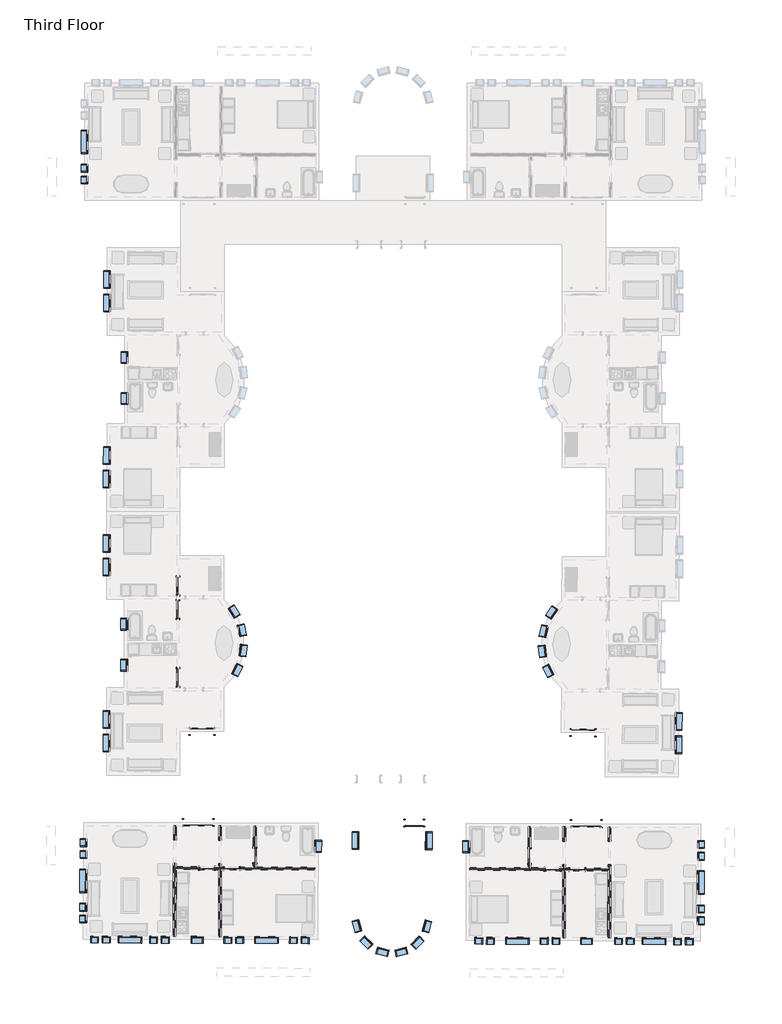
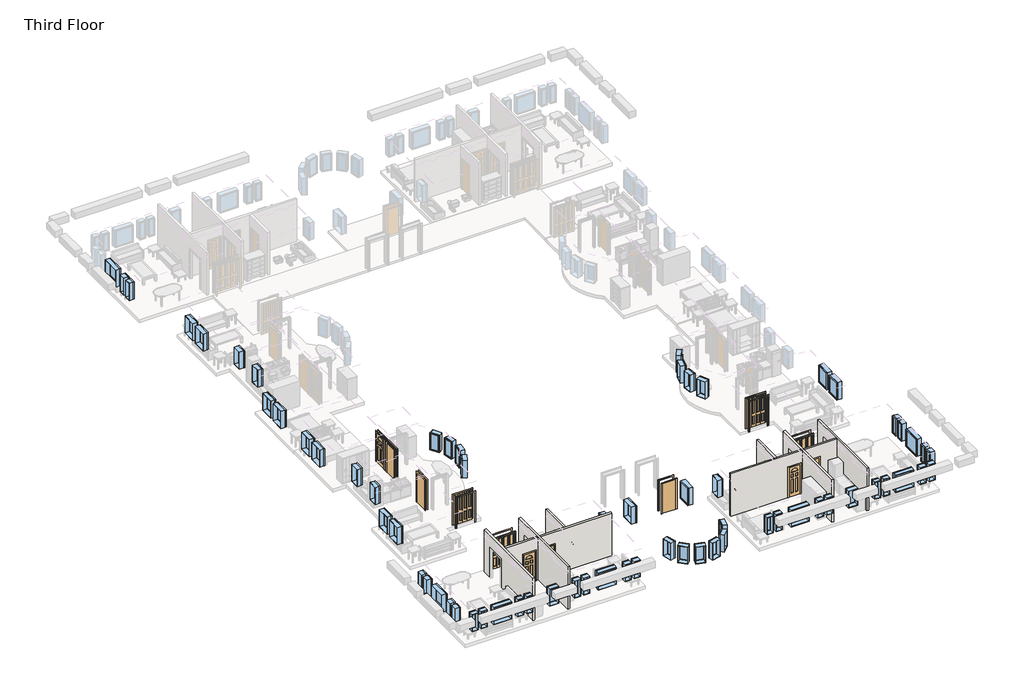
# One storey, part 1 of 5: 67 windows, 14 doors, 8 walls.
"""IFC4 building model written with IfcOpenShell, lengths in millimetres."""

from ifc_helpers import new_model, si_unit, frame, origin, place, context, project, spatial, polyline, outline, extrude, faceted_brep, transform, mapped, element, save
from components import m_bifold_4_panel_1220_x_2134mm_46e1cad3, m_bifold_4_panel_1220_x_2134mm_cde6dea2, m_bifold_4_panel_1525_x_2134mm_1ddae71f, m_bifold_4_panel_1525_x_2134mm_ac598c8b, m_single_decorative_2_0762_x_2134mm_0d0af7cb, m_single_decorative_2_0762_x_2134mm_2fe67c8e, m_single_decorative_2_0915_x_2134mm_0b11df3f, m_single_flush_0762_x_2134mm_0d89e411, m_single_flush_0762_x_2134mm_a28375c7, m_single_flush_0915_x_2134mm_ab9b6334, m_single_flush_0915_x_2134mm_08e0827a, m_single_flush_0915_x_2134mm_70678a7c, m_fixed_0406_x_1220mm_57fee329, m_fixed_0406_x_1220mm_85c28f40, m_fixed_0610_x_1220mm_2c28ef1d, m_fixed_0610_x_1220mm_1ea27827, m_fixed_0915_x_1220mm_bde29121, m_fixed_0915_x_1220mm_2a2509e7, m_fixed_1220_x_1220mm_e08ff7af, m_fixed_1220_x_1220mm_8f5f8ad3

model = new_model("IFC4")

# Units and contexts
model_context = context("Model", 3, world=origin())
ifc_project = project(units=[si_unit("LENGTHUNIT", "METRE", prefix="MILLI")], contexts=[model_context])

# Site, building, storey
site = spatial("IfcSite", under=ifc_project)
building = spatial("IfcBuilding", under=site)
storey = spatial("IfcBuildingStorey", under=building, Name="Third Floor", Elevation=6096.0)

# Doors
placement = place(None, origin())
m_bifold_4_panel_1220_x_2134mm_shape = m_bifold_4_panel_1220_x_2134mm_46e1cad3(model_context)
element("IfcDoor", 1, ObjectType="M_Bifold-4 Panel : 1220 x 2134mm", at=placement, inside=storey, context=model_context, shape_type="MappedRepresentation", body=[
    mapped(m_bifold_4_panel_1220_x_2134mm_shape, transform((-9084.0085376, -31158.0124606, 6096.0), x_axis=(0.9999905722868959, -0.0043422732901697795, 0.0), y_axis=(0.0043422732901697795, 0.9999905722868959, 0.0), z_axis=(0.0, 0.0, 1.0))),
])
m_bifold_4_panel_1220_x_2134mm_2_shape = m_bifold_4_panel_1220_x_2134mm_cde6dea2(model_context)
element("IfcDoor", 2, ObjectType="M_Bifold-4 Panel : 1220 x 2134mm", at=placement, inside=storey, context=model_context, shape_type="MappedRepresentation", body=[
    mapped(m_bifold_4_panel_1220_x_2134mm_2_shape, transform((-28896.4341492, -31100.6581424, 6096.0), x_axis=(-0.9999989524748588, 0.0014474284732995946, 0.0), y_axis=(-0.0014474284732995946, -0.9999989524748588, 0.0), z_axis=(0.0, 0.0, 1.0))),
])
m_bifold_4_panel_1525_x_2134mm_shape = m_bifold_4_panel_1525_x_2134mm_1ddae71f(model_context)
element("IfcDoor", 3, ObjectType="M_Bifold-4 Panel : 1525 x 2134mm", at=placement, inside=storey, context=model_context, shape_type="MappedRepresentation", body=[
    mapped(m_bifold_4_panel_1525_x_2134mm_shape, transform((-29084.8596063, -35825.933405, 6096.0), x_axis=(-0.9999958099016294, 0.0028948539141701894, 0.0), y_axis=(-0.0028948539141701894, -0.9999958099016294, 0.0), z_axis=(0.0, 0.0, 1.0))),
])
m_bifold_4_panel_1525_x_2134mm_2_shape = m_bifold_4_panel_1525_x_2134mm_ac598c8b(model_context)
element("IfcDoor", 4, ObjectType="M_Bifold-4 Panel : 1525 x 2134mm", at=placement, inside=storey, context=model_context, shape_type="MappedRepresentation", body=[
    mapped(m_bifold_4_panel_1525_x_2134mm_2_shape, transform((-8922.9440871, -35884.2994497, 6096.0), x_axis=(0.9999958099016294, -0.0028948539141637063, 0.0), y_axis=(0.0028948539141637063, 0.9999958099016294, 0.0), z_axis=(0.0, 0.0, 1.0))),
])
m_single_decorative_2_0762_x_2134mm_shape = m_single_decorative_2_0762_x_2134mm_0d0af7cb(model_context)
element("IfcDoor", 5, ObjectType="M_Single-Decorative 2 : 0762 x 2134mm", at=placement, inside=storey, context=model_context, shape_type="MappedRepresentation", body=[
    mapped(m_single_decorative_2_0762_x_2134mm_shape, transform((-10682.8170859, -38255.9648119, 6096.0), x_axis=(0.9999958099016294, -0.002894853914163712, 0.0), y_axis=(0.002894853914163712, 0.9999958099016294, 0.0), z_axis=(0.0, 0.0, 1.0))),
])
element("IfcDoor", 6, ObjectType="M_Single-Decorative 2 : 0762 x 2134mm", at=placement, inside=storey, context=model_context, shape_type="MappedRepresentation", body=[
    mapped(m_single_decorative_2_0762_x_2134mm_shape, transform((-28625.491904, -38204.0231719, 6096.0), x_axis=(0.9999958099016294, -0.0028948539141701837, 0.0), y_axis=(0.0028948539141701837, 0.9999958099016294, 0.0), z_axis=(0.0, 0.0, 1.0))),
])
m_single_decorative_2_0762_x_2134mm_2_shape = m_single_decorative_2_0762_x_2134mm_2fe67c8e(model_context)
element("IfcDoor", 7, ObjectType="M_Single-Decorative 2 : 0762 x 2134mm", at=placement, inside=storey, context=model_context, shape_type="MappedRepresentation", body=[
    mapped(m_single_decorative_2_0762_x_2134mm_2_shape, transform((-9396.0724775, -38259.6897652, 6096.0), x_axis=(-0.9999958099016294, 0.002894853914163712, 0.0), y_axis=(-0.002894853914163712, -0.9999958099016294, 0.0), z_axis=(0.0, 0.0, 1.0))),
])
element("IfcDoor", 8, ObjectType="M_Single-Decorative 2 : 0762 x 2134mm", at=placement, inside=storey, context=model_context, shape_type="MappedRepresentation", body=[
    mapped(m_single_decorative_2_0762_x_2134mm_2_shape, transform((-27338.7472956, -38207.7481251, 6096.0), x_axis=(-0.9999958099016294, 0.0028948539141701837, 0.0), y_axis=(-0.0028948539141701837, -0.9999958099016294, 0.0), z_axis=(0.0, 0.0, 1.0))),
])
m_single_decorative_2_0915_x_2134mm_shape = m_single_decorative_2_0915_x_2134mm_0b11df3f(model_context)
element("IfcDoor", 9, ObjectType="M_Single-Decorative 2 : 0915 x 2134mm", at=placement, inside=storey, context=model_context, shape_type="MappedRepresentation", body=[
    mapped(m_single_decorative_2_0915_x_2134mm_shape, transform((-30128.4841363, -23534.6169126, 6096.0), x_axis=(-0.0014474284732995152, -0.9999989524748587, 0.0), y_axis=(0.9999989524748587, -0.0014474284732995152, 0.0), z_axis=(0.0, 0.0, 1.0))),
])
m_single_flush_0762_x_2134mm_shape = m_single_flush_0762_x_2134mm_0d89e411(model_context)
element("IfcDoor", 10, ObjectType="M_Single-Flush : 0762 x 2134mm", at=placement, inside=storey, context=model_context, shape_type="MappedRepresentation", body=[
    mapped(m_single_flush_0762_x_2134mm_shape, transform((-26146.2902967, -37533.4472886, 6096.0), x_axis=(-0.0028948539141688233, -0.9999958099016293, 0.0), y_axis=(0.9999958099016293, -0.0028948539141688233, 0.0), z_axis=(0.0, 0.0, 1.0))),
])
m_single_flush_0762_x_2134mm_2_shape = m_single_flush_0762_x_2134mm_a28375c7(model_context)
element("IfcDoor", 11, ObjectType="M_Single-Flush : 0762 x 2134mm", at=placement, inside=storey, context=model_context, shape_type="MappedRepresentation", body=[
    mapped(m_single_flush_0762_x_2134mm_2_shape, transform((-11871.3501103, -37574.7713282, 6096.0), x_axis=(-0.002894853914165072, -0.9999958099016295, 0.0), y_axis=(0.9999958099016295, -0.002894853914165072, 0.0), z_axis=(0.0, 0.0, 1.0))),
])
m_single_flush_0915_x_2134mm_shape = m_single_flush_0915_x_2134mm_ab9b6334(model_context)
element("IfcDoor", 12, ObjectType="M_Single-Flush : 0915 x 2134mm", at=placement, inside=storey, context=model_context, shape_type="MappedRepresentation", body=[
    mapped(m_single_flush_0915_x_2134mm_shape, transform((-30135.3858371, -28302.8619177, 6096.0), x_axis=(-0.0014474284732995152, -0.9999989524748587, 0.0), y_axis=(0.9999989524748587, -0.0014474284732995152, 0.0), z_axis=(0.0, 0.0, 1.0))),
])
m_single_flush_0915_x_2134mm_2_shape = m_single_flush_0915_x_2134mm_08e0827a(model_context)
element("IfcDoor", 13, ObjectType="M_Single-Flush : 0915 x 2134mm", at=placement, inside=storey, context=model_context, shape_type="MappedRepresentation", body=[
    mapped(m_single_flush_0915_x_2134mm_2_shape, transform((-30130.249999, -24754.6156346, 6096.0), x_axis=(0.0014474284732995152, 0.9999989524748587, 0.0), y_axis=(-0.9999989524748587, 0.0014474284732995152, 0.0), z_axis=(0.0, 0.0, 1.0))),
])
m_single_flush_0915_x_2134mm_3_shape = m_single_flush_0915_x_2134mm_70678a7c(model_context)
element("IfcDoor", 14, ObjectType="M_Single-Flush : 0915 x 2134mm", at=placement, inside=storey, context=model_context, shape_type="MappedRepresentation", body=[
    mapped(m_single_flush_0915_x_2134mm_3_shape, transform((-17860.906636, -35858.4252454, 6096.0), x_axis=(0.9999958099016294, -0.0028948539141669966, 0.0), y_axis=(0.0028948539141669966, 0.9999958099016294, 0.0), z_axis=(0.0, 0.0, 1.0))),
])

# Walls
element("IfcWall", 15, ObjectType="Interior - 135mm Partition (2-hr)", at=placement, inside=storey, context=model_context, shape_type="Brep", body=[
    faceted_brep([(-7661.5898742, -41808.9757108, 6096.0), (-7650.6270624, -38021.9915787, 6096.0), (-7650.6270624, -38021.9915787, 8230.0), (-7647.0953406, -36801.9966906, 8230.0), (-7647.0953406, -36801.9966906, 6096.0), (-7644.9560436, -36062.9997871, 6096.0), (-7644.9560436, -36062.9997871, 9144.0), (-7661.5898742, -41808.9757108, 9144.0), (-7786.1264946, -38021.599326, 8230.0), (-7786.1264946, -38021.599326, 6096.0), (-7786.6330941, -38196.5985928, 6096.0), (-7787.0253468, -38332.098025, 6096.0), (-7797.0893064, -41808.5834581, 6096.0), (-7797.0893064, -41808.5834581, 9144.0), (-7787.0253468, -38332.098025, 9144.0), (-7786.6330941, -38196.5985928, 9144.0), (-7780.4554758, -36062.6075344, 9144.0), (-7780.4554758, -36062.6075344, 6096.0), (-7782.5947729, -36801.6044379, 6096.0), (-7782.5947729, -36801.6044379, 8230.0)], [[[0, 1, 2, 3, 4, 5, 6, 7]], [[8, 9, 10, 11, 12, 13, 14, 15, 16, 17, 18, 19]], [[18, 17, 5, 4]], [[12, 11, 10, 9, 1, 0]], [[7, 6, 16, 15, 14, 13]], [[4, 3, 19, 18]], [[2, 1, 9, 8]], [[3, 2, 8, 19]], [[6, 5, 17, 16]], [[0, 7, 13, 12]]]),
])
element("IfcWall", 16, ObjectType="Interior - 135mm Partition (2-hr)", at=placement, inside=storey, context=model_context, shape_type="Brep", body=[
    faceted_brep([(-10000.8354782, -36795.1829282, 8230.0), (-10000.8354782, -36795.1829282, 6096.0), (-9998.6961811, -36056.1860247, 6096.0), (-9998.6961811, -36056.1860247, 9144.0), (-10004.8737994, -38190.1770831, 9144.0), (-10005.2660521, -38325.6765153, 9144.0), (-10015.3300117, -41802.1619484, 9144.0), (-10015.3300117, -41802.1619484, 6096.0), (-10005.2660521, -38325.6765153, 6096.0), (-10004.8737994, -38190.1770831, 6096.0), (-10004.3671999, -38015.1778163, 6096.0), (-10004.3671999, -38015.1778163, 8230.0), (-10134.1956134, -36055.793772, 6096.0), (-10136.3349104, -36794.7906755, 6096.0), (-10136.3349104, -36794.7906755, 8230.0), (-10139.8666322, -38014.7855636, 8230.0), (-10139.8666322, -38014.7855636, 6096.0), (-10140.3732316, -38189.7848304, 6096.0), (-10140.7654843, -38325.2842626, 6096.0), (-10150.829444, -41801.7696957, 6096.0), (-10150.829444, -41801.7696957, 9144.0), (-10140.7654843, -38325.2842626, 9144.0), (-10140.3732316, -38189.7848304, 9144.0), (-10134.1956134, -36055.793772, 9144.0)], [[[0, 1, 2, 3, 4, 5, 6, 7, 8, 9, 10, 11]], [[12, 13, 14, 15, 16, 17, 18, 19, 20, 21, 22, 23]], [[2, 1, 13, 12]], [[10, 9, 8, 7, 19, 18, 17, 16]], [[6, 5, 4, 3, 23, 22, 21, 20]], [[16, 15, 11, 10]], [[14, 13, 1, 0]], [[15, 14, 0, 11]], [[3, 2, 12, 23]], [[7, 6, 20, 19]]]),
])
element("IfcWall", 17, ObjectType="Interior - 135mm Partition (2-hr)", at=placement, inside=storey, context=model_context, shape_type="Brep", body=[
    faceted_brep([(-9777.2670074, -38326.336542, 6096.0), (-9777.2670074, -38326.336542, 8230.0), (-9015.2702003, -38328.5424207, 8230.0), (-9015.2702003, -38328.5424207, 6096.0), (-7787.0253468, -38332.098025, 6096.0), (-7787.0253468, -38332.098025, 9144.0), (-10005.2660521, -38325.6765153, 9144.0), (-10005.2660521, -38325.6765153, 6096.0), (-9776.8747547, -38190.8371097, 8230.0), (-9776.8747547, -38190.8371097, 6096.0), (-10004.8737994, -38190.1770831, 6096.0), (-10004.8737994, -38190.1770831, 9144.0), (-7786.6330941, -38196.5985928, 9144.0), (-7786.6330941, -38196.5985928, 6096.0), (-9014.8779476, -38193.0429884, 6096.0), (-9014.8779476, -38193.0429884, 8230.0)], [[[0, 1, 2, 3, 4, 5, 6, 7]], [[8, 9, 10, 11, 12, 13, 14, 15]], [[9, 0, 7, 10]], [[3, 14, 13, 4]], [[5, 12, 11, 6]], [[1, 0, 9, 8]], [[2, 1, 8, 15]], [[3, 2, 15, 14]], [[5, 4, 13, 12]], [[7, 6, 11, 10]]]),
    faceted_brep([(-10302.0148087, -38324.8174674, 8230.0), (-10302.0148087, -38324.8174674, 6096.0), (-10140.7654843, -38325.2842626, 6096.0), (-10140.7654843, -38325.2842626, 9144.0), (-14989.2451686, -38311.2485634, 9144.0), (-14989.2451686, -38311.2485634, 6096.0), (-11064.0116158, -38322.6115887, 6096.0), (-11064.0116158, -38322.6115887, 8230.0), (-10301.622556, -38189.3180352, 6096.0), (-10301.622556, -38189.3180352, 8230.0), (-11063.6193631, -38187.1121565, 8230.0), (-11063.6193631, -38187.1121565, 6096.0), (-11805.3662551, -38184.9648986, 6096.0), (-11940.8656874, -38184.5726459, 6096.0), (-14988.8529159, -38175.7491311, 6096.0), (-14988.8529159, -38175.7491311, 9144.0), (-11940.8656874, -38184.5726459, 9144.0), (-11805.3662551, -38184.9648986, 9144.0), (-10140.3732316, -38189.7848304, 9144.0), (-10140.3732316, -38189.7848304, 6096.0)], [[[0, 1, 2, 3, 4, 5, 6, 7]], [[8, 9, 10, 11, 12, 13, 14, 15, 16, 17, 18, 19]], [[1, 8, 19, 2]], [[11, 6, 5, 14, 13, 12]], [[15, 4, 3, 18, 17, 16]], [[9, 8, 1, 0]], [[10, 9, 0, 7]], [[11, 10, 7, 6]], [[5, 4, 15, 14]], [[3, 2, 19, 18]]]),
])
element("IfcWall", 18, ObjectType="Interior - 135mm Partition (2-hr)", at=placement, inside=storey, context=model_context, shape_type="SweptSolid", body=[
    extrude(outline(polyline([(-2309.0, 0.0), (-2080.0, 0.0), (-2080.0, -2134.0), (-1318.0, -2134.0), (-1318.0, 0.0), (-175.0000001, 0.0), (-175.0000001, -3048.0), (-2309.0, -3048.0), (-2309.0, 0.0)])), frame((-11798.6820374, -35875.9745735, 6096.0), z_axis=(-0.9999958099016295, 0.002894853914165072, 0.0), x_axis=(0.002894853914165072, 0.9999958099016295, 0.0)), (0.0, 0.0, 1.0), 135.5),
])
element("IfcWall", 19, ObjectType="Interior - 135mm Partition (2-hr)", at=placement, inside=storey, context=model_context, shape_type="Brep", body=[
    faceted_brep([(-30244.9952471, -41743.5997775, 6096.0), (-30234.9312874, -38267.1143443, 6096.0), (-30234.5390347, -38131.6149121, 6096.0), (-30234.0324353, -37956.6156454, 6096.0), (-30234.0324353, -37956.6156454, 8230.0), (-30230.5007135, -36736.6207573, 8230.0), (-30230.5007135, -36736.6207573, 6096.0), (-30228.3614165, -35997.6238538, 6096.0), (-30228.3614165, -35997.6238538, 9144.0), (-30234.5390347, -38131.6149121, 9144.0), (-30234.9312874, -38267.1143443, 9144.0), (-30244.9952471, -41743.5997775, 9144.0), (-30369.5318675, -37956.2233926, 8230.0), (-30369.5318675, -37956.2233926, 6096.0), (-30380.4946793, -41743.2075247, 6096.0), (-30380.4946793, -41743.2075247, 9144.0), (-30363.8608487, -35997.2316011, 9144.0), (-30363.8608487, -35997.2316011, 6096.0), (-30366.0001458, -36736.2285046, 6096.0), (-30366.0001458, -36736.2285046, 8230.0)], [[[0, 1, 2, 3, 4, 5, 6, 7, 8, 9, 10, 11]], [[12, 13, 14, 15, 16, 17, 18, 19]], [[18, 17, 7, 6]], [[14, 13, 3, 2, 1, 0]], [[11, 10, 9, 8, 16, 15]], [[6, 5, 19, 18]], [[4, 3, 13, 12]], [[5, 4, 12, 19]], [[0, 11, 15, 14]], [[8, 7, 17, 16]]]),
])
element("IfcWall", 20, ObjectType="Interior - 135mm Partition (2-hr)", at=placement, inside=storey, context=model_context, shape_type="Brep", body=[
    faceted_brep([(-27876.760576, -36743.4345197, 8230.0), (-27876.760576, -36743.4345197, 6096.0), (-27874.6212789, -36004.4376162, 6096.0), (-27874.6212789, -36004.4376162, 9144.0), (-27880.7988972, -38138.4286745, 9144.0), (-27881.1911499, -38273.9281067, 9144.0), (-27891.2551095, -41750.4135399, 9144.0), (-27891.2551095, -41750.4135399, 6096.0), (-27881.1911499, -38273.9281067, 6096.0), (-27880.7988972, -38138.4286745, 6096.0), (-27880.2922977, -37963.4294078, 6096.0), (-27880.2922977, -37963.4294078, 8230.0), (-28010.1207112, -36004.0453635, 6096.0), (-28012.2600082, -36743.042267, 6096.0), (-28012.2600082, -36743.042267, 8230.0), (-28015.79173, -37963.037155, 8230.0), (-28015.79173, -37963.037155, 6096.0), (-28016.2983294, -38138.0364218, 6096.0), (-28016.6905821, -38273.535854, 6096.0), (-28026.7545418, -41750.0212871, 6096.0), (-28026.7545418, -41750.0212871, 9144.0), (-28016.6905821, -38273.535854, 9144.0), (-28016.2983294, -38138.0364218, 9144.0), (-28010.1207112, -36004.0453635, 9144.0)], [[[0, 1, 2, 3, 4, 5, 6, 7, 8, 9, 10, 11]], [[12, 13, 14, 15, 16, 17, 18, 19, 20, 21, 22, 23]], [[2, 1, 13, 12]], [[10, 9, 8, 7, 19, 18, 17, 16]], [[6, 5, 4, 3, 23, 22, 21, 20]], [[16, 15, 11, 10]], [[14, 13, 1, 0]], [[15, 14, 0, 11]], [[7, 6, 20, 19]], [[3, 2, 12, 23]]]),
])
element("IfcWall", 21, ObjectType="Interior - 135mm Partition (2-hr)", at=placement, inside=storey, context=model_context, shape_type="Brep", body=[
    faceted_brep([(-30234.5390347, -38131.6149121, 6096.0), (-30234.5390347, -38131.6149121, 9144.0), (-28016.2983294, -38138.0364218, 9144.0), (-28016.2983294, -38138.0364218, 6096.0), (-28244.2973741, -38137.3763951, 6096.0), (-28244.2973741, -38137.3763951, 8230.0), (-29006.2941812, -38135.1705164, 8230.0), (-29006.2941812, -38135.1705164, 6096.0), (-30234.9312874, -38267.1143443, 9144.0), (-30234.9312874, -38267.1143443, 6096.0), (-29006.6864339, -38270.6699486, 6096.0), (-29006.6864339, -38270.6699486, 8230.0), (-28244.6896268, -38272.8758273, 8230.0), (-28244.6896268, -38272.8758273, 6096.0), (-28016.6905821, -38273.535854, 6096.0), (-28016.6905821, -38273.535854, 9144.0)], [[[0, 1, 2, 3, 4, 5, 6, 7]], [[8, 9, 10, 11, 12, 13, 14, 15]], [[9, 0, 7, 10]], [[13, 4, 3, 14]], [[1, 8, 15, 2]], [[1, 0, 9, 8]], [[3, 2, 15, 14]], [[5, 4, 13, 12]], [[6, 5, 12, 11]], [[7, 6, 11, 10]]]),
    faceted_brep([(-27719.5495728, -38138.8954697, 8230.0), (-27719.5495728, -38138.8954697, 6096.0), (-27880.7988972, -38138.4286745, 6096.0), (-27880.7988972, -38138.4286745, 9144.0), (-26215.8058737, -38143.2486063, 9144.0), (-26080.3064415, -38143.640859, 9144.0), (-23032.3192129, -38152.4643737, 9144.0), (-23032.3192129, -38152.4643737, 6096.0), (-26080.3064415, -38143.640859, 6096.0), (-26215.8058737, -38143.2486063, 6096.0), (-26957.5527657, -38141.1013484, 6096.0), (-26957.5527657, -38141.1013484, 8230.0), (-27719.9418255, -38274.3949019, 6096.0), (-27719.9418255, -38274.3949019, 8230.0), (-26957.9450184, -38276.6007806, 8230.0), (-26957.9450184, -38276.6007806, 6096.0), (-23032.7114656, -38287.9638059, 6096.0), (-23032.7114656, -38287.9638059, 9144.0), (-27881.1911499, -38273.9281067, 9144.0), (-27881.1911499, -38273.9281067, 6096.0)], [[[0, 1, 2, 3, 4, 5, 6, 7, 8, 9, 10, 11]], [[12, 13, 14, 15, 16, 17, 18, 19]], [[1, 12, 19, 2]], [[15, 10, 9, 8, 7, 16]], [[17, 6, 5, 4, 3, 18]], [[3, 2, 19, 18]], [[13, 12, 1, 0]], [[14, 13, 0, 11]], [[15, 14, 11, 10]], [[7, 6, 17, 16]]]),
])
element("IfcWall", 22, ObjectType="Interior - 135mm Partition (2-hr)", at=placement, inside=storey, context=model_context, shape_type="SweptSolid", body=[
    extrude(outline(polyline([(-2309.0, 0.0), (-2080.0, 0.0), (-2080.0, -2134.0), (-1317.9999999, -2134.0), (-1317.9999999, 0.0), (-175.0, 0.0), (-175.0, -3048.0), (-2309.0, -3048.0), (-2309.0, 0.0)])), frame((-26073.6222238, -35834.6505339, 6096.0), z_axis=(-0.9999958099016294, 0.0028948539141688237, 0.0), x_axis=(0.0028948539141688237, 0.9999958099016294, 0.0)), (0.0, 0.0, 1.0), 135.5),
])

# Windows
m_fixed_0406_x_1220mm_shape = m_fixed_0406_x_1220mm_57fee329(model_context)
element("IfcWindow", 23, ObjectType="M_Fixed : 0406 x 1220mm", at=placement, inside=storey, context=model_context, shape_type="MappedRepresentation", body=[
    mapped(m_fixed_0406_x_1220mm_shape, transform((-35008.8416203, -2447.8811614, 6096.0), x_axis=(0.0, -1.0, 0.0), y_axis=(1.0, 0.0, 0.0), z_axis=(0.0, 0.0, 1.0))),
])
element("IfcWindow", 24, ObjectType="M_Fixed : 0406 x 1220mm", at=placement, inside=storey, context=model_context, shape_type="MappedRepresentation", body=[
    mapped(m_fixed_0406_x_1220mm_shape, transform((-35008.8416203, -1837.8811614, 6096.0), x_axis=(0.0, -1.0, 0.0), y_axis=(1.0, 0.0, 0.0), z_axis=(0.0, 0.0, 1.0))),
])
element("IfcWindow", 25, ObjectType="M_Fixed : 0406 x 1220mm", at=placement, inside=storey, context=model_context, shape_type="MappedRepresentation", body=[
    mapped(m_fixed_0406_x_1220mm_shape, transform((-10500.8722121, -41988.7571565, 6096.0), x_axis=(0.9999958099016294, -0.002894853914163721, 0.0), y_axis=(0.002894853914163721, 0.9999958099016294, 0.0), z_axis=(0.0, 0.0, 1.0))),
])
element("IfcWindow", 26, ObjectType="M_Fixed : 0406 x 1220mm", at=placement, inside=storey, context=model_context, shape_type="MappedRepresentation", body=[
    mapped(m_fixed_0406_x_1220mm_shape, transform((-11110.8696561, -41986.9912956, 6096.0), x_axis=(0.9999958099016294, -0.002894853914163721, 0.0), y_axis=(0.002894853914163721, 0.9999958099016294, 0.0), z_axis=(0.0, 0.0, 1.0))),
])
element("IfcWindow", 27, ObjectType="M_Fixed : 0406 x 1220mm", at=placement, inside=storey, context=model_context, shape_type="MappedRepresentation", body=[
    mapped(m_fixed_0406_x_1220mm_shape, transform((-3572.1512442, -42008.8148756, 6096.0), x_axis=(0.9999958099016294, -0.002894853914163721, 0.0), y_axis=(0.002894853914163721, 0.9999958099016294, 0.0), z_axis=(0.0, 0.0, 1.0))),
])
element("IfcWindow", 28, ObjectType="M_Fixed : 0406 x 1220mm", at=placement, inside=storey, context=model_context, shape_type="MappedRepresentation", body=[
    mapped(m_fixed_0406_x_1220mm_shape, transform((-4182.1486882, -42007.0490147, 6096.0), x_axis=(0.9999958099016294, -0.002894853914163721, 0.0), y_axis=(0.002894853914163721, 0.9999958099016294, 0.0), z_axis=(0.0, 0.0, 1.0))),
])
element("IfcWindow", 29, ObjectType="M_Fixed : 0406 x 1220mm", at=placement, inside=storey, context=model_context, shape_type="MappedRepresentation", body=[
    mapped(m_fixed_0406_x_1220mm_shape, transform((-2955.3079143, -36968.5794278, 6096.0), x_axis=(0.0028948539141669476, 0.9999958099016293, 0.0), y_axis=(-0.9999958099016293, 0.0028948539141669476, 0.0), z_axis=(0.0, 0.0, 1.0))),
])
element("IfcWindow", 30, ObjectType="M_Fixed : 0406 x 1220mm", at=placement, inside=storey, context=model_context, shape_type="MappedRepresentation", body=[
    mapped(m_fixed_0406_x_1220mm_shape, transform((-2957.0737751, -37578.5768719, 6096.0), x_axis=(0.0028948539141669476, 0.9999958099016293, 0.0), y_axis=(-0.9999958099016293, 0.0028948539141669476, 0.0), z_axis=(0.0, 0.0, 1.0))),
])
element("IfcWindow", 31, ObjectType="M_Fixed : 0406 x 1220mm", at=placement, inside=storey, context=model_context, shape_type="MappedRepresentation", body=[
    mapped(m_fixed_0406_x_1220mm_shape, transform((-23528.3176256, -41951.0444472, 6096.0), x_axis=(0.9999958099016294, -0.0028948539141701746, 0.0), y_axis=(0.0028948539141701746, 0.9999958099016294, 0.0), z_axis=(0.0, 0.0, 1.0))),
])
element("IfcWindow", 32, ObjectType="M_Fixed : 0406 x 1220mm", at=placement, inside=storey, context=model_context, shape_type="MappedRepresentation", body=[
    mapped(m_fixed_0406_x_1220mm_shape, transform((-24138.3150696, -41949.2785863, 6096.0), x_axis=(0.9999958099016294, -0.0028948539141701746, 0.0), y_axis=(0.0028948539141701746, 0.9999958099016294, 0.0), z_axis=(0.0, 0.0, 1.0))),
])
element("IfcWindow", 33, ObjectType="M_Fixed : 0406 x 1220mm", at=placement, inside=storey, context=model_context, shape_type="MappedRepresentation", body=[
    mapped(m_fixed_0406_x_1220mm_shape, transform((-30795.2871761, -41930.0075438, 6096.0), x_axis=(0.9999958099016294, -0.0028948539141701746, 0.0), y_axis=(0.0028948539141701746, 0.9999958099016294, 0.0), z_axis=(0.0, 0.0, 1.0))),
])
element("IfcWindow", 34, ObjectType="M_Fixed : 0406 x 1220mm", at=placement, inside=storey, context=model_context, shape_type="MappedRepresentation", body=[
    mapped(m_fixed_0406_x_1220mm_shape, transform((-31405.2846201, -41928.2416829, 6096.0), x_axis=(0.9999958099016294, -0.0028948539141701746, 0.0), y_axis=(0.0028948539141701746, 0.9999958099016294, 0.0), z_axis=(0.0, 0.0, 1.0))),
])
element("IfcWindow", 35, ObjectType="M_Fixed : 0406 x 1220mm", at=placement, inside=storey, context=model_context, shape_type="MappedRepresentation", body=[
    mapped(m_fixed_0406_x_1220mm_shape, transform((-35070.1428086, -40837.627884, 6096.0), x_axis=(-0.002894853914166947, -0.9999958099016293, 0.0), y_axis=(0.9999958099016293, -0.002894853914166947, 0.0), z_axis=(0.0, 0.0, 1.0))),
])
element("IfcWindow", 36, ObjectType="M_Fixed : 0406 x 1220mm", at=placement, inside=storey, context=model_context, shape_type="MappedRepresentation", body=[
    mapped(m_fixed_0406_x_1220mm_shape, transform((-35068.3769478, -40227.63044, 6096.0), x_axis=(-0.002894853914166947, -0.9999958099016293, 0.0), y_axis=(0.9999958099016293, -0.002894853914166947, 0.0), z_axis=(0.0, 0.0, 1.0))),
])
m_fixed_0406_x_1220mm_2_shape = m_fixed_0406_x_1220mm_85c28f40(model_context)
element("IfcWindow", 37, ObjectType="M_Fixed : 0406 x 1220mm", at=placement, inside=storey, context=model_context, shape_type="MappedRepresentation", body=[
    mapped(m_fixed_0406_x_1220mm_2_shape, transform((-14514.855393, -41977.1372129, 6096.0), x_axis=(-0.9999958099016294, 0.002894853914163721, 0.0), y_axis=(-0.002894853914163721, -0.9999958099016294, 0.0), z_axis=(0.0, 0.0, 1.0))),
])
element("IfcWindow", 38, ObjectType="M_Fixed : 0406 x 1220mm", at=placement, inside=storey, context=model_context, shape_type="MappedRepresentation", body=[
    mapped(m_fixed_0406_x_1220mm_2_shape, transform((-13904.857949, -41978.9030738, 6096.0), x_axis=(-0.9999958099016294, 0.002894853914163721, 0.0), y_axis=(-0.002894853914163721, -0.9999958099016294, 0.0), z_axis=(0.0, 0.0, 1.0))),
])
element("IfcWindow", 39, ObjectType="M_Fixed : 0406 x 1220mm", at=placement, inside=storey, context=model_context, shape_type="MappedRepresentation", body=[
    mapped(m_fixed_0406_x_1220mm_2_shape, transform((-7247.8858424, -41998.1741163, 6096.0), x_axis=(-0.9999958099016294, 0.002894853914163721, 0.0), y_axis=(-0.002894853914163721, -0.9999958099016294, 0.0), z_axis=(0.0, 0.0, 1.0))),
])
element("IfcWindow", 40, ObjectType="M_Fixed : 0406 x 1220mm", at=placement, inside=storey, context=model_context, shape_type="MappedRepresentation", body=[
    mapped(m_fixed_0406_x_1220mm_2_shape, transform((-6637.8883984, -41999.9399772, 6096.0), x_axis=(-0.9999958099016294, 0.002894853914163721, 0.0), y_axis=(-0.002894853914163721, -0.9999958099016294, 0.0), z_axis=(0.0, 0.0, 1.0))),
])
element("IfcWindow", 41, ObjectType="M_Fixed : 0406 x 1220mm", at=placement, inside=storey, context=model_context, shape_type="MappedRepresentation", body=[
    mapped(m_fixed_0406_x_1220mm_2_shape, transform((-2966.7773255, -40930.5628267, 6096.0), x_axis=(-0.0028948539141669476, -0.9999958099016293, 0.0), y_axis=(0.9999958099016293, -0.0028948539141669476, 0.0), z_axis=(0.0, 0.0, 1.0))),
])
element("IfcWindow", 42, ObjectType="M_Fixed : 0406 x 1220mm", at=placement, inside=storey, context=model_context, shape_type="MappedRepresentation", body=[
    mapped(m_fixed_0406_x_1220mm_2_shape, transform((-2965.0114646, -40320.5653826, 6096.0), x_axis=(-0.0028948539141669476, -0.9999958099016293, 0.0), y_axis=(0.9999958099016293, -0.0028948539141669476, 0.0), z_axis=(0.0, 0.0, 1.0))),
])
element("IfcWindow", 43, ObjectType="M_Fixed : 0406 x 1220mm", at=placement, inside=storey, context=model_context, shape_type="MappedRepresentation", body=[
    mapped(m_fixed_0406_x_1220mm_2_shape, transform((-27542.3008065, -41939.4245036, 6096.0), x_axis=(-0.9999958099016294, 0.0028948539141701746, 0.0), y_axis=(-0.0028948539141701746, -0.9999958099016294, 0.0), z_axis=(0.0, 0.0, 1.0))),
])
element("IfcWindow", 44, ObjectType="M_Fixed : 0406 x 1220mm", at=placement, inside=storey, context=model_context, shape_type="MappedRepresentation", body=[
    mapped(m_fixed_0406_x_1220mm_2_shape, transform((-26932.3033625, -41941.1903644, 6096.0), x_axis=(-0.9999958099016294, 0.0028948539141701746, 0.0), y_axis=(-0.0028948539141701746, -0.9999958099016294, 0.0), z_axis=(0.0, 0.0, 1.0))),
])
element("IfcWindow", 45, ObjectType="M_Fixed : 0406 x 1220mm", at=placement, inside=storey, context=model_context, shape_type="MappedRepresentation", body=[
    mapped(m_fixed_0406_x_1220mm_2_shape, transform((-34471.0217744, -41919.3667845, 6096.0), x_axis=(-0.9999958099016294, 0.0028948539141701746, 0.0), y_axis=(-0.0028948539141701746, -0.9999958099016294, 0.0), z_axis=(0.0, 0.0, 1.0))),
])
element("IfcWindow", 46, ObjectType="M_Fixed : 0406 x 1220mm", at=placement, inside=storey, context=model_context, shape_type="MappedRepresentation", body=[
    mapped(m_fixed_0406_x_1220mm_2_shape, transform((-33861.0243303, -41921.1326454, 6096.0), x_axis=(-0.9999958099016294, 0.0028948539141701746, 0.0), y_axis=(-0.0028948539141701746, -0.9999958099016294, 0.0), z_axis=(0.0, 0.0, 1.0))),
])
element("IfcWindow", 47, ObjectType="M_Fixed : 0406 x 1220mm", at=placement, inside=storey, context=model_context, shape_type="MappedRepresentation", body=[
    mapped(m_fixed_0406_x_1220mm_2_shape, transform((-35058.6733974, -36875.6444852, 6096.0), x_axis=(0.002894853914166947, 0.9999958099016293, 0.0), y_axis=(-0.9999958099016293, 0.002894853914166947, 0.0), z_axis=(0.0, 0.0, 1.0))),
])
element("IfcWindow", 48, ObjectType="M_Fixed : 0406 x 1220mm", at=placement, inside=storey, context=model_context, shape_type="MappedRepresentation", body=[
    mapped(m_fixed_0406_x_1220mm_2_shape, transform((-35060.4392583, -37485.6419292, 6096.0), x_axis=(0.002894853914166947, 0.9999958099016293, 0.0), y_axis=(-0.9999958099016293, 0.002894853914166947, 0.0), z_axis=(0.0, 0.0, 1.0))),
])
m_fixed_0610_x_1220mm_shape = m_fixed_0610_x_1220mm_2c28ef1d(model_context)
element("IfcWindow", 49, ObjectType="M_Fixed : 0610 x 1220mm", at=placement, inside=storey, context=model_context, shape_type="MappedRepresentation", body=[
    mapped(m_fixed_0610_x_1220mm_shape, transform((-32923.0053866, -13805.8618518, 6096.0), x_axis=(-0.0014474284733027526, -0.9999989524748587, 0.0), y_axis=(0.9999989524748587, -0.0014474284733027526, 0.0), z_axis=(0.0, 0.0, 1.0))),
])
element("IfcWindow", 50, ObjectType="M_Fixed : 0610 x 1220mm", at=placement, inside=storey, context=model_context, shape_type="MappedRepresentation", body=[
    mapped(m_fixed_0610_x_1220mm_shape, transform((-32919.9171532, -11672.2640868, 6096.0), x_axis=(-0.0014474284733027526, -0.9999989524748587, 0.0), y_axis=(0.9999989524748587, -0.0014474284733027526, 0.0), z_axis=(0.0, 0.0, 1.0))),
])
element("IfcWindow", 51, ObjectType="M_Fixed : 0610 x 1220mm", at=placement, inside=storey, context=model_context, shape_type="MappedRepresentation", body=[
    mapped(m_fixed_0610_x_1220mm_shape, transform((-17192.9734341, -41226.7827416, 6096.0), x_axis=(0.2616141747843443, 0.9651725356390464, 0.0), y_axis=(-0.9651725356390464, 0.2616141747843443, 0.0), z_axis=(0.0, 0.0, 1.0))),
])
element("IfcWindow", 52, ObjectType="M_Fixed : 0610 x 1220mm", at=placement, inside=storey, context=model_context, shape_type="MappedRepresentation", body=[
    mapped(m_fixed_0610_x_1220mm_shape, transform((-18533.9080335, -42559.9760987, 6096.0), x_axis=(0.9666710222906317, 0.2560217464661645, 0.0), y_axis=(-0.2560217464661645, 0.9666710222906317, 0.0), z_axis=(0.0, 0.0, 1.0))),
])
element("IfcWindow", 53, ObjectType="M_Fixed : 0610 x 1220mm", at=placement, inside=storey, context=model_context, shape_type="MappedRepresentation", body=[
    mapped(m_fixed_0610_x_1220mm_shape, transform((-17684.8266921, -42073.0305917, 6096.0), x_axis=(0.709150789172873, 0.7050568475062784, 0.0), y_axis=(-0.7050568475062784, 0.709150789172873, 0.0), z_axis=(0.0, 0.0, 1.0))),
])
element("IfcWindow", 54, ObjectType="M_Fixed : 0610 x 1220mm", at=placement, inside=storey, context=model_context, shape_type="MappedRepresentation", body=[
    mapped(m_fixed_0610_x_1220mm_shape, transform((-10733.6258869, -24914.686736, 6096.0), x_axis=(-0.5501771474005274, -0.835047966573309, 0.0), y_axis=(0.835047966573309, -0.5501771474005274, 0.0), z_axis=(0.0, 0.0, 1.0))),
])
element("IfcWindow", 55, ObjectType="M_Fixed : 0610 x 1220mm", at=placement, inside=storey, context=model_context, shape_type="MappedRepresentation", body=[
    mapped(m_fixed_0610_x_1220mm_shape, transform((-11153.2313288, -25885.3058303, 6096.0), x_axis=(-0.23139418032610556, -0.9728600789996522, 0.0), y_axis=(0.9728600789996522, -0.23139418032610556, 0.0), z_axis=(0.0, 0.0, 1.0))),
])
element("IfcWindow", 56, ObjectType="M_Fixed : 0610 x 1220mm", at=placement, inside=storey, context=model_context, shape_type="MappedRepresentation", body=[
    mapped(m_fixed_0610_x_1220mm_shape, transform((-29136.4441269, -41934.8096722, 6096.0), x_axis=(0.9999958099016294, -0.0028948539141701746, 0.0), y_axis=(0.0028948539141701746, 0.9999958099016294, 0.0), z_axis=(0.0, 0.0, 1.0))),
])
element("IfcWindow", 57, ObjectType="M_Fixed : 0610 x 1220mm", at=placement, inside=storey, context=model_context, shape_type="MappedRepresentation", body=[
    mapped(m_fixed_0610_x_1220mm_shape, transform((-22841.1675047, -37064.0131692, 6096.0), x_axis=(0.0028948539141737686, 0.9999958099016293, 0.0), y_axis=(-0.9999958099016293, 0.0028948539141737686, 0.0), z_axis=(0.0, 0.0, 1.0))),
])
element("IfcWindow", 58, ObjectType="M_Fixed : 0610 x 1220mm", at=placement, inside=storey, context=model_context, shape_type="MappedRepresentation", body=[
    mapped(m_fixed_0610_x_1220mm_shape, transform((-27047.2502691, -27908.2496385, 6096.0), x_axis=(0.4532525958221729, 0.8913821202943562, 0.0), y_axis=(-0.8913821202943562, 0.4532525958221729, 0.0), z_axis=(0.0, 0.0, 1.0))),
])
element("IfcWindow", 59, ObjectType="M_Fixed : 0610 x 1220mm", at=placement, inside=storey, context=model_context, shape_type="MappedRepresentation", body=[
    mapped(m_fixed_0610_x_1220mm_shape, transform((-26738.7440135, -26896.1747529, 6096.0), x_axis=(0.12104747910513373, 0.9926467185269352, 0.0), y_axis=(-0.9926467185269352, 0.12104747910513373, 0.0), z_axis=(0.0, 0.0, 1.0))),
])
m_fixed_0610_x_1220mm_2_shape = m_fixed_0610_x_1220mm_1ea27827(model_context)
element("IfcWindow", 60, ObjectType="M_Fixed : 0610 x 1220mm", at=placement, inside=storey, context=model_context, shape_type="MappedRepresentation", body=[
    mapped(m_fixed_0610_x_1220mm_2_shape, transform((-8906.7288917, -41993.3719879, 6096.0), x_axis=(-0.9999958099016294, 0.002894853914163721, 0.0), y_axis=(-0.002894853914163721, -0.9999958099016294, 0.0), z_axis=(0.0, 0.0, 1.0))),
])
element("IfcWindow", 61, ObjectType="M_Fixed : 0610 x 1220mm", at=placement, inside=storey, context=model_context, shape_type="MappedRepresentation", body=[
    mapped(m_fixed_0610_x_1220mm_2_shape, transform((-15173.6996323, -37086.2094616, 6096.0), x_axis=(0.0028948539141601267, 0.9999958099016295, 0.0), y_axis=(-0.9999958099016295, 0.0028948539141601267, 0.0), z_axis=(0.0, 0.0, 1.0))),
])
element("IfcWindow", 62, ObjectType="M_Fixed : 0610 x 1220mm", at=placement, inside=storey, context=model_context, shape_type="MappedRepresentation", body=[
    mapped(m_fixed_0610_x_1220mm_2_shape, transform((-20845.9001557, -41216.208008, 6096.0), x_axis=(-0.25602174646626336, 0.9666710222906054, 0.0), y_axis=(-0.9666710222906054, -0.25602174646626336, 0.0), z_axis=(0.0, 0.0, 1.0))),
])
element("IfcWindow", 63, ObjectType="M_Fixed : 0610 x 1220mm", at=placement, inside=storey, context=model_context, shape_type="MappedRepresentation", body=[
    mapped(m_fixed_0610_x_1220mm_2_shape, transform((-19512.7067986, -42557.1426074, 6096.0), x_axis=(-0.9651725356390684, 0.26161417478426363, 0.0), y_axis=(-0.26161417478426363, -0.9651725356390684, 0.0), z_axis=(0.0, 0.0, 1.0))),
])
element("IfcWindow", 64, ObjectType="M_Fixed : 0610 x 1220mm", at=placement, inside=storey, context=model_context, shape_type="MappedRepresentation", body=[
    mapped(m_fixed_0610_x_1220mm_2_shape, transform((-20358.9546487, -42065.2893494, 6096.0), x_axis=(-0.7050568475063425, 0.7091507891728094, 0.0), y_axis=(-0.7091507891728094, -0.7050568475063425, 0.0), z_axis=(0.0, 0.0, 1.0))),
])
element("IfcWindow", 65, ObjectType="M_Fixed : 0610 x 1220mm", at=placement, inside=storey, context=model_context, shape_type="MappedRepresentation", body=[
    mapped(m_fixed_0610_x_1220mm_2_shape, transform((-10913.0946738, -27954.1574868, 6096.0), x_axis=(-0.448084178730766, 0.8939913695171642, 0.0), y_axis=(-0.8939913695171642, -0.448084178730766, 0.0), z_axis=(0.0, 0.0, 1.0))),
])
element("IfcWindow", 66, ObjectType="M_Fixed : 0610 x 1220mm", at=placement, inside=storey, context=model_context, shape_type="MappedRepresentation", body=[
    mapped(m_fixed_0610_x_1220mm_2_shape, transform((-11215.5601844, -26940.9029442, 6096.0), x_axis=(-0.11529833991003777, 0.9933309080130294, 0.0), y_axis=(-0.9933309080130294, -0.11529833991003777, 0.0), z_axis=(0.0, 0.0, 1.0))),
])
element("IfcWindow", 67, ObjectType="M_Fixed : 0610 x 1220mm", at=placement, inside=storey, context=model_context, shape_type="MappedRepresentation", body=[
    mapped(m_fixed_0610_x_1220mm_2_shape, transform((-32939.9662087, -25523.749577, 6096.0), x_axis=(0.0014474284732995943, 0.9999989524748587, 0.0), y_axis=(-0.9999989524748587, 0.0014474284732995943, 0.0), z_axis=(0.0, 0.0, 1.0))),
])
element("IfcWindow", 68, ObjectType="M_Fixed : 0610 x 1220mm", at=placement, inside=storey, context=model_context, shape_type="MappedRepresentation", body=[
    mapped(m_fixed_0610_x_1220mm_2_shape, transform((-32943.0544421, -27657.347342, 6096.0), x_axis=(0.0014474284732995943, 0.9999989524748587, 0.0), y_axis=(-0.9999989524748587, 0.0014474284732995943, 0.0), z_axis=(0.0, 0.0, 1.0))),
])
element("IfcWindow", 69, ObjectType="M_Fixed : 0610 x 1220mm", at=placement, inside=storey, context=model_context, shape_type="MappedRepresentation", body=[
    mapped(m_fixed_0610_x_1220mm_2_shape, transform((-27209.2126527, -24866.0217566, 6096.0), x_axis=(0.5453332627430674, -0.8382193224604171, 0.0), y_axis=(0.8382193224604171, 0.5453332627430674, 0.0), z_axis=(0.0, 0.0, 1.0))),
])
element("IfcWindow", 70, ObjectType="M_Fixed : 0610 x 1220mm", at=placement, inside=storey, context=model_context, shape_type="MappedRepresentation", body=[
    mapped(m_fixed_0610_x_1220mm_2_shape, transform((-26794.992959, -25839.6200974, 6096.0), x_axis=(0.225757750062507, -0.974183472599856, 0.0), y_axis=(0.974183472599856, 0.225757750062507, 0.0), z_axis=(0.0, 0.0, 1.0))),
])
m_fixed_0915_x_1220mm_shape = m_fixed_0915_x_1220mm_bde29121(model_context)
element("IfcWindow", 71, ObjectType="M_Fixed : 0915 x 1220mm", at=placement, inside=storey, context=model_context, shape_type="MappedRepresentation", body=[
    mapped(m_fixed_0915_x_1220mm_shape, transform((-33843.4583707, -17987.0839419, 6096.0), x_axis=(-0.0014474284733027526, -0.9999989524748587, 0.0), y_axis=(0.9999989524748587, -0.0014474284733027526, 0.0), z_axis=(0.0, 0.0, 1.0))),
])
element("IfcWindow", 72, ObjectType="M_Fixed : 0915 x 1220mm", at=placement, inside=storey, context=model_context, shape_type="MappedRepresentation", body=[
    mapped(m_fixed_0915_x_1220mm_shape, transform((-33841.6936659, -16767.885219, 6096.0), x_axis=(-0.0014474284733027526, -0.9999989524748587, 0.0), y_axis=(0.9999989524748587, -0.0014474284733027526, 0.0), z_axis=(0.0, 0.0, 1.0))),
])
element("IfcWindow", 73, ObjectType="M_Fixed : 0915 x 1220mm", at=placement, inside=storey, context=model_context, shape_type="MappedRepresentation", body=[
    mapped(m_fixed_0915_x_1220mm_shape, transform((-33830.2230847, -8843.0935205, 6096.0), x_axis=(-0.0014474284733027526, -0.9999989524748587, 0.0), y_axis=(0.9999989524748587, -0.0014474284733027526, 0.0), z_axis=(0.0, 0.0, 1.0))),
])
element("IfcWindow", 74, ObjectType="M_Fixed : 0915 x 1220mm", at=placement, inside=storey, context=model_context, shape_type="MappedRepresentation", body=[
    mapped(m_fixed_0915_x_1220mm_shape, transform((-33828.4583799, -7623.8947976, 6096.0), x_axis=(-0.0014474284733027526, -0.9999989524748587, 0.0), y_axis=(0.9999989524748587, -0.0014474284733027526, 0.0), z_axis=(0.0, 0.0, 1.0))),
])
element("IfcWindow", 75, ObjectType="M_Fixed : 0915 x 1220mm", at=placement, inside=storey, context=model_context, shape_type="MappedRepresentation", body=[
    mapped(m_fixed_0915_x_1220mm_shape, transform((-4115.4083058, -30569.9819368, 6096.0), x_axis=(0.004342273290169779, 0.9999905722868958, 0.0), y_axis=(-0.9999905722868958, 0.004342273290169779, 0.0), z_axis=(0.0, 0.0, 1.0))),
])
element("IfcWindow", 76, ObjectType="M_Fixed : 0915 x 1220mm", at=placement, inside=storey, context=model_context, shape_type="MappedRepresentation", body=[
    mapped(m_fixed_0915_x_1220mm_shape, transform((-4120.7024054, -31789.1704426, 6096.0), x_axis=(0.004342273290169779, 0.9999905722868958, 0.0), y_axis=(-0.9999905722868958, 0.004342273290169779, 0.0), z_axis=(0.0, 0.0, 1.0))),
])
m_fixed_0915_x_1220mm_2_shape = m_fixed_0915_x_1220mm_2a2509e7(model_context)
element("IfcWindow", 77, ObjectType="M_Fixed : 0915 x 1220mm", at=placement, inside=storey, context=model_context, shape_type="MappedRepresentation", body=[
    mapped(m_fixed_0915_x_1220mm_2_shape, transform((-20924.5426014, -36764.5602636, 6096.0), x_axis=(0.002894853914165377, 0.9999958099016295, 0.0), y_axis=(-0.9999958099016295, 0.002894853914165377, 0.0), z_axis=(0.0, 0.0, 1.0))),
])
element("IfcWindow", 78, ObjectType="M_Fixed : 0915 x 1220mm", at=placement, inside=storey, context=model_context, shape_type="MappedRepresentation", body=[
    mapped(m_fixed_0915_x_1220mm_2_shape, transform((-17088.5586747, -36775.6649232, 6096.0), x_axis=(-0.0028948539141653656, -0.9999958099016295, 0.0), y_axis=(0.9999958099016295, -0.0028948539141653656, 0.0), z_axis=(0.0, 0.0, 1.0))),
])
element("IfcWindow", 79, ObjectType="M_Fixed : 0915 x 1220mm", at=placement, inside=storey, context=model_context, shape_type="MappedRepresentation", body=[
    mapped(m_fixed_0915_x_1220mm_2_shape, transform((-33848.3113088, -21339.8804297, 6096.0), x_axis=(0.0014474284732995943, 0.9999989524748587, 0.0), y_axis=(-0.9999989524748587, 0.0014474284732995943, 0.0), z_axis=(0.0, 0.0, 1.0))),
])
element("IfcWindow", 80, ObjectType="M_Fixed : 0915 x 1220mm", at=placement, inside=storey, context=model_context, shape_type="MappedRepresentation", body=[
    mapped(m_fixed_0915_x_1220mm_2_shape, transform((-33850.0760136, -22559.0791526, 6096.0), x_axis=(0.0014474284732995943, 0.9999989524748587, 0.0), y_axis=(-0.9999989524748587, 0.0014474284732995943, 0.0), z_axis=(0.0, 0.0, 1.0))),
])
element("IfcWindow", 81, ObjectType="M_Fixed : 0915 x 1220mm", at=placement, inside=storey, context=model_context, shape_type="MappedRepresentation", body=[
    mapped(m_fixed_0915_x_1220mm_2_shape, transform((-33861.5465948, -30483.8708512, 6096.0), x_axis=(0.0014474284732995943, 0.9999989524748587, 0.0), y_axis=(-0.9999989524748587, 0.0014474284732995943, 0.0), z_axis=(0.0, 0.0, 1.0))),
])
element("IfcWindow", 82, ObjectType="M_Fixed : 0915 x 1220mm", at=placement, inside=storey, context=model_context, shape_type="MappedRepresentation", body=[
    mapped(m_fixed_0915_x_1220mm_2_shape, transform((-33863.3112996, -31703.069574, 6096.0), x_axis=(0.0014474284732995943, 0.9999989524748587, 0.0), y_axis=(-0.9999989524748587, 0.0014474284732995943, 0.0), z_axis=(0.0, 0.0, 1.0))),
])
m_fixed_1220_x_1220mm_shape = m_fixed_1220_x_1220mm_e08ff7af(model_context)
element("IfcWindow", 83, ObjectType="M_Fixed : 1220 x 1220mm", at=placement, inside=storey, context=model_context, shape_type="MappedRepresentation", body=[
    mapped(m_fixed_1220_x_1220mm_shape, transform((-25535.309216, -41945.2344754, 6096.0), x_axis=(0.9999958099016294, -0.0028948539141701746, 0.0), y_axis=(0.0028948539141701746, 0.9999958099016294, 0.0), z_axis=(0.0, 0.0, 1.0))),
])
element("IfcWindow", 84, ObjectType="M_Fixed : 1220 x 1220mm", at=placement, inside=storey, context=model_context, shape_type="MappedRepresentation", body=[
    mapped(m_fixed_1220_x_1220mm_shape, transform((-32633.1544752, -41924.6871641, 6096.0), x_axis=(0.9999958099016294, -0.0028948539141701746, 0.0), y_axis=(0.0028948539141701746, 0.9999958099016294, 0.0), z_axis=(0.0, 0.0, 1.0))),
])
element("IfcWindow", 85, ObjectType="M_Fixed : 1220 x 1220mm", at=placement, inside=storey, context=model_context, shape_type="MappedRepresentation", body=[
    mapped(m_fixed_1220_x_1220mm_shape, transform((-35064.408103, -38856.6361846, 6096.0), x_axis=(-0.002894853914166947, -0.9999958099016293, 0.0), y_axis=(0.9999958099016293, -0.002894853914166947, 0.0), z_axis=(0.0, 0.0, 1.0))),
])
m_fixed_1220_x_1220mm_2_shape = m_fixed_1220_x_1220mm_8f5f8ad3(model_context)
element("IfcWindow", 86, ObjectType="M_Fixed : 1220 x 1220mm", at=placement, inside=storey, context=model_context, shape_type="MappedRepresentation", body=[
    mapped(m_fixed_1220_x_1220mm_2_shape, transform((-35008.8416203, -466.8811614, 6096.0), x_axis=(0.0, 1.0, 0.0), y_axis=(-1.0, 0.0, 0.0), z_axis=(0.0, 0.0, 1.0))),
])
element("IfcWindow", 87, ObjectType="M_Fixed : 1220 x 1220mm", at=placement, inside=storey, context=model_context, shape_type="MappedRepresentation", body=[
    mapped(m_fixed_1220_x_1220mm_2_shape, transform((-12507.8638025, -41982.9471847, 6096.0), x_axis=(-0.9999958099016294, 0.002894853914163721, 0.0), y_axis=(-0.002894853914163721, -0.9999958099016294, 0.0), z_axis=(0.0, 0.0, 1.0))),
])
element("IfcWindow", 88, ObjectType="M_Fixed : 1220 x 1220mm", at=placement, inside=storey, context=model_context, shape_type="MappedRepresentation", body=[
    mapped(m_fixed_1220_x_1220mm_2_shape, transform((-5410.0185433, -42003.494496, 6096.0), x_axis=(-0.9999958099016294, 0.002894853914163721, 0.0), y_axis=(-0.002894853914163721, -0.9999958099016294, 0.0), z_axis=(0.0, 0.0, 1.0))),
])
element("IfcWindow", 89, ObjectType="M_Fixed : 1220 x 1220mm", at=placement, inside=storey, context=model_context, shape_type="MappedRepresentation", body=[
    mapped(m_fixed_1220_x_1220mm_2_shape, transform((-2961.0426199, -38949.5711273, 6096.0), x_axis=(-0.0028948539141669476, -0.9999958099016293, 0.0), y_axis=(0.9999958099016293, -0.0028948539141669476, 0.0), z_axis=(0.0, 0.0, 1.0))),
])

save(model, "model.ifc")
